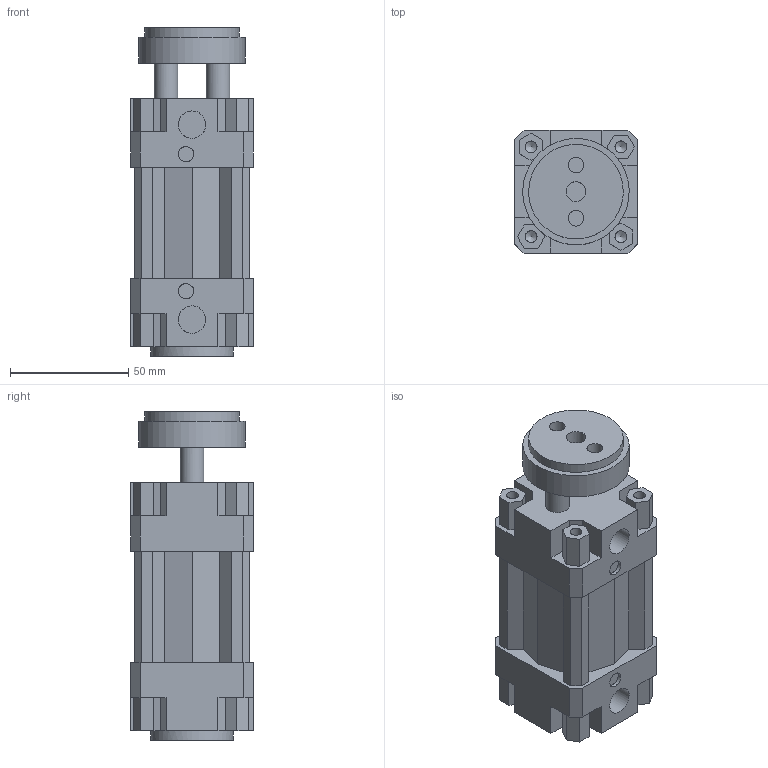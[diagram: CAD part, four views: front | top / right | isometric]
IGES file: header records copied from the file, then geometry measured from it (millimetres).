
Global section: file name: 132#_040_0000_01; native system: Autodesk Inventor 2014; preprocessor: unknown; author: A. Manieri; date: 20161006.154720; units: millimetre
Bounding box: 52 x 52 x 139 mm (x, y, z)
Volume: 255125.9 mm3; surface area: 62254.9 mm2
Topology: 2 solids, 2 shells, 180 faces, 492 edges, 336 vertices
Faces by surface type: bspline 180
